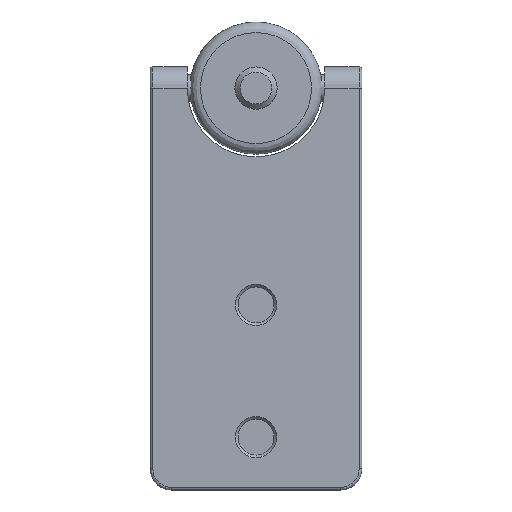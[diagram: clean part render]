
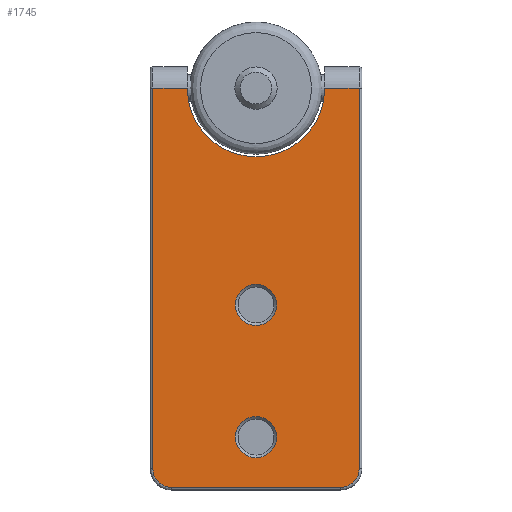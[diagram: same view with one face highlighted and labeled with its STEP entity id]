
A CAD part, front view. The second image highlights one B-rep face of the part: STEP entity #1745.
In plain terms, the highlighted planar face has unit normal (0, -1, 0).
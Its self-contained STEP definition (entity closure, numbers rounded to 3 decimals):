
#906=CARTESIAN_POINT('',(-518.136,-496.109,-4.0));
#907=VERTEX_POINT('',#906);
#914=CARTESIAN_POINT('',(-492.136,-496.109,-4.));
#915=VERTEX_POINT('',#914);
#916=CARTESIAN_POINT('',(-505.136,-496.109,-4.0));
#917=DIRECTION('',(0.0,1.0,0.0));
#918=DIRECTION('',(0.0,0.0,-1.0));
#919=AXIS2_PLACEMENT_3D('',#916,#917,#918);
#920=CIRCLE('',#919,13.0);
#921=EDGE_CURVE('',#915,#907,#920,.T.);
#1141=CARTESIAN_POINT('',(-505.136,-496.109,-73.9));
#1142=VERTEX_POINT('',#1141);
#1149=CARTESIAN_POINT('',(-505.136,-496.109,-66.1));
#1150=VERTEX_POINT('',#1149);
#1151=CARTESIAN_POINT('',(-505.136,-496.109,-70.));
#1152=DIRECTION('',(0.0,-1.0,0.0));
#1153=DIRECTION('',(0.0,0.0,-1.0));
#1154=AXIS2_PLACEMENT_3D('',#1151,#1152,#1153);
#1155=CIRCLE('',#1154,3.9);
#1156=EDGE_CURVE('',#1142,#1150,#1155,.T.);
#1158=CARTESIAN_POINT('',(-505.136,-496.109,-70.));
#1159=DIRECTION('',(0.0,-1.0,0.0));
#1160=DIRECTION('',(0.0,0.0,-1.0));
#1161=AXIS2_PLACEMENT_3D('',#1158,#1159,#1160);
#1162=CIRCLE('',#1161,3.9);
#1163=EDGE_CURVE('',#1150,#1142,#1162,.T.);
#1256=CARTESIAN_POINT('',(-505.136,-496.109,-48.9));
#1257=VERTEX_POINT('',#1256);
#1264=CARTESIAN_POINT('',(-505.136,-496.109,-41.1));
#1265=VERTEX_POINT('',#1264);
#1266=CARTESIAN_POINT('',(-505.136,-496.109,-45.));
#1267=DIRECTION('',(0.0,-1.0,0.0));
#1268=DIRECTION('',(0.0,0.0,-1.0));
#1269=AXIS2_PLACEMENT_3D('',#1266,#1267,#1268);
#1270=CIRCLE('',#1269,3.9);
#1271=EDGE_CURVE('',#1257,#1265,#1270,.T.);
#1273=CARTESIAN_POINT('',(-505.136,-496.109,-45.));
#1274=DIRECTION('',(0.0,-1.0,0.0));
#1275=DIRECTION('',(0.0,0.0,-1.0));
#1276=AXIS2_PLACEMENT_3D('',#1273,#1274,#1275);
#1277=CIRCLE('',#1276,3.9);
#1278=EDGE_CURVE('',#1265,#1257,#1277,.T.);
#1390=CARTESIAN_POINT('',(-485.636,-496.109,-4.0));
#1391=VERTEX_POINT('',#1390);
#1392=CARTESIAN_POINT('',(-485.636,-496.109,-4.));
#1393=DIRECTION('',(-1.0,0.0,0.0));
#1394=VECTOR('',#1393,6.5);
#1395=LINE('',#1392,#1394);
#1396=EDGE_CURVE('',#1391,#915,#1395,.T.);
#1668=CARTESIAN_POINT('',(-524.636,-496.109,-4.0));
#1669=VERTEX_POINT('',#1668);
#1677=CARTESIAN_POINT('',(-518.136,-496.109,-4.0));
#1678=DIRECTION('',(-1.0,0.0,0.0));
#1679=VECTOR('',#1678,6.5);
#1680=LINE('',#1677,#1679);
#1681=EDGE_CURVE('',#907,#1669,#1680,.T.);
#1687=CARTESIAN_POINT('',(-529.136,-496.109,8.));
#1688=DIRECTION('',(0.0,-1.0,0.0));
#1689=DIRECTION('',(0.0,0.0,-1.0));
#1690=AXIS2_PLACEMENT_3D('',#1687,#1688,#1689);
#1691=PLANE('',#1690);
#1692=ORIENTED_EDGE('',*,*,#921,.T.);
#1693=ORIENTED_EDGE('',*,*,#1681,.T.);
#1694=CARTESIAN_POINT('',(-524.636,-496.109,-76.0));
#1695=VERTEX_POINT('',#1694);
#1696=CARTESIAN_POINT('',(-524.636,-496.109,-4.0));
#1697=DIRECTION('',(0.0,0.0,-1.0));
#1698=VECTOR('',#1697,72.0);
#1699=LINE('',#1696,#1698);
#1700=EDGE_CURVE('',#1669,#1695,#1699,.T.);
#1701=ORIENTED_EDGE('',*,*,#1700,.T.);
#1702=CARTESIAN_POINT('',(-521.136,-496.109,-79.5));
#1703=VERTEX_POINT('',#1702);
#1704=CARTESIAN_POINT('',(-521.136,-496.109,-76.0));
#1705=DIRECTION('',(0.0,-1.0,0.0));
#1706=DIRECTION('',(0.0,0.0,-1.0));
#1707=AXIS2_PLACEMENT_3D('',#1704,#1705,#1706);
#1708=CIRCLE('',#1707,3.5);
#1709=EDGE_CURVE('',#1695,#1703,#1708,.T.);
#1710=ORIENTED_EDGE('',*,*,#1709,.T.);
#1711=CARTESIAN_POINT('',(-489.136,-496.109,-79.5));
#1712=VERTEX_POINT('',#1711);
#1713=CARTESIAN_POINT('',(-521.136,-496.109,-79.5));
#1714=DIRECTION('',(1.0,0.0,0.0));
#1715=VECTOR('',#1714,32.0);
#1716=LINE('',#1713,#1715);
#1717=EDGE_CURVE('',#1703,#1712,#1716,.T.);
#1718=ORIENTED_EDGE('',*,*,#1717,.T.);
#1719=CARTESIAN_POINT('',(-485.636,-496.109,-76.0));
#1720=VERTEX_POINT('',#1719);
#1721=CARTESIAN_POINT('',(-489.136,-496.109,-76.0));
#1722=DIRECTION('',(0.0,-1.0,0.0));
#1723=DIRECTION('',(0.0,0.0,-1.0));
#1724=AXIS2_PLACEMENT_3D('',#1721,#1722,#1723);
#1725=CIRCLE('',#1724,3.5);
#1726=EDGE_CURVE('',#1712,#1720,#1725,.T.);
#1727=ORIENTED_EDGE('',*,*,#1726,.T.);
#1728=CARTESIAN_POINT('',(-485.636,-496.109,-76.0));
#1729=DIRECTION('',(0.0,0.0,1.0));
#1730=VECTOR('',#1729,72.0);
#1731=LINE('',#1728,#1730);
#1732=EDGE_CURVE('',#1720,#1391,#1731,.T.);
#1733=ORIENTED_EDGE('',*,*,#1732,.T.);
#1734=ORIENTED_EDGE('',*,*,#1396,.T.);
#1735=EDGE_LOOP('',(#1692,#1693,#1701,#1710,#1718,#1727,#1733,#1734));
#1736=FACE_OUTER_BOUND('',#1735,.T.);
#1737=ORIENTED_EDGE('',*,*,#1163,.F.);
#1738=ORIENTED_EDGE('',*,*,#1156,.F.);
#1739=EDGE_LOOP('',(#1737,#1738));
#1740=FACE_BOUND('',#1739,.T.);
#1741=ORIENTED_EDGE('',*,*,#1278,.F.);
#1742=ORIENTED_EDGE('',*,*,#1271,.F.);
#1743=EDGE_LOOP('',(#1741,#1742));
#1744=FACE_BOUND('',#1743,.T.);
#1745=ADVANCED_FACE('',(#1736,#1740,#1744),#1691,.T.);
